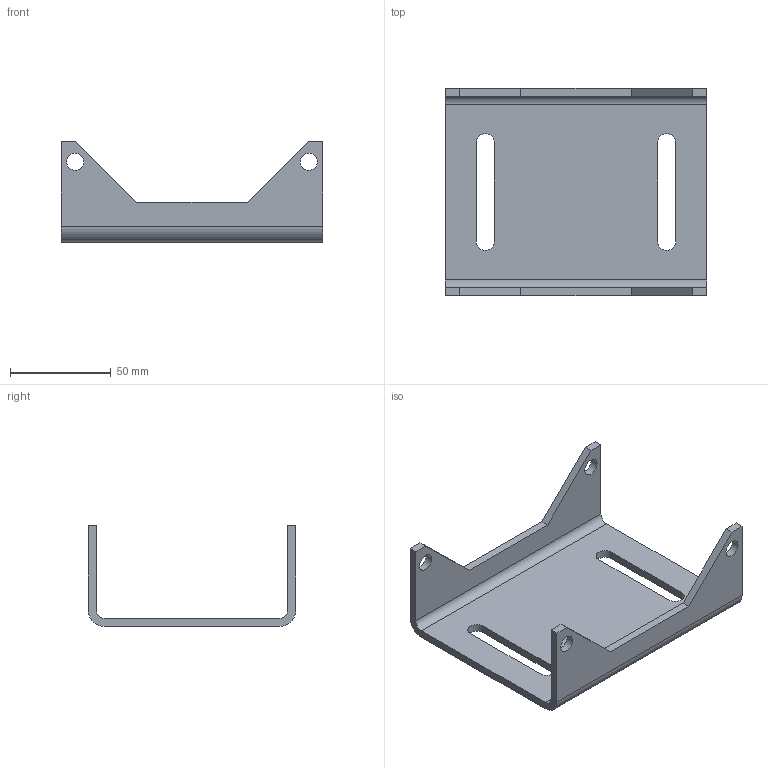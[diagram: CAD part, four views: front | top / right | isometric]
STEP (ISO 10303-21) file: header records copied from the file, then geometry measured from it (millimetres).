
FILE_DESCRIPTION((''),'2;1');
FILE_NAME('F:\AirCom-Produktdokumentation\Befestigungswinkel-Muttern\CAD\CAD AirCom\3D\B-BW00-40.stp','2008-09-29T16:18:10',('Frank Schroers'),(''),'Autodesk Inventor 2008','Autodesk Inventor 2008','');
FILE_SCHEMA(('AUTOMOTIVE_DESIGN { 1 0 10303 214 1 1 1 1 }'));
Length unit declared in the file: millimetre
Products named in the file (1): B-BW00-40
Bounding box: 130 x 103 x 50 mm (x, y, z)
Volume: 73256.9 mm3; surface area: 40821.2 mm2
Topology: 1 solids, 1 shells, 34 faces, 96 edges, 64 vertices
Faces by surface type: plane 22, cylinder 12
Full cylindrical faces by diameter (mm): 8.5 x4
Entity records: 1134 total; most frequent: CARTESIAN_POINT 191, DIRECTION 186, ORIENTED_EDGE 184, EDGE_CURVE 92, VECTOR 68, LINE 68, VERTEX_POINT 64, AXIS2_PLACEMENT_3D 59
